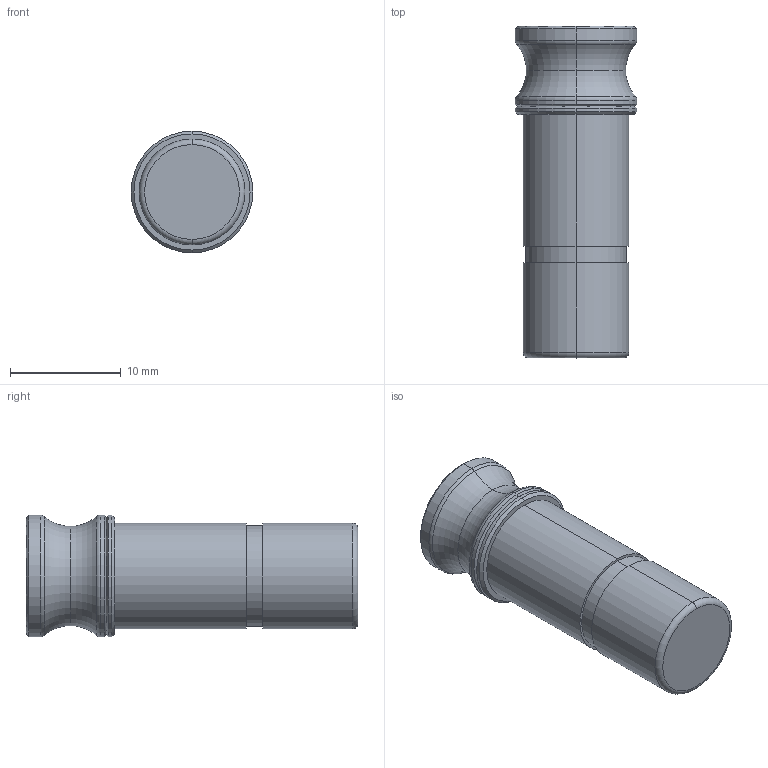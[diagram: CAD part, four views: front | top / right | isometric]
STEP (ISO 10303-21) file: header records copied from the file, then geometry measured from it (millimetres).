
FILE_DESCRIPTION (( 'STEP AP214' ), '1' );
FILE_NAME ('84610000104NB.STEP', '2023-01-04T07:13:09', ( '' ), ( '' ), 'SwSTEP 2.0', 'SolidWorks 2020', '' );
FILE_SCHEMA (( 'AUTOMOTIVE_DESIGN' ));
Length unit declared in the file: millimetre
Products named in the file (1): 84610000104NB
Bounding box: 11 x 30 x 11 mm (x, y, z)
Volume: 2215.6 mm3; surface area: 1127.8 mm2
Topology: 1 solids, 1 shells, 35 faces, 68 edges, 38 vertices
Faces by surface type: cylinder 12, torus 10, cone 8, plane 5
Entity records: 928 total; most frequent: DIRECTION 188, CARTESIAN_POINT 142, ORIENTED_EDGE 136, AXIS2_PLACEMENT_3D 84, EDGE_CURVE 68, CIRCLE 48, VERTEX_POINT 38, EDGE_LOOP 38
